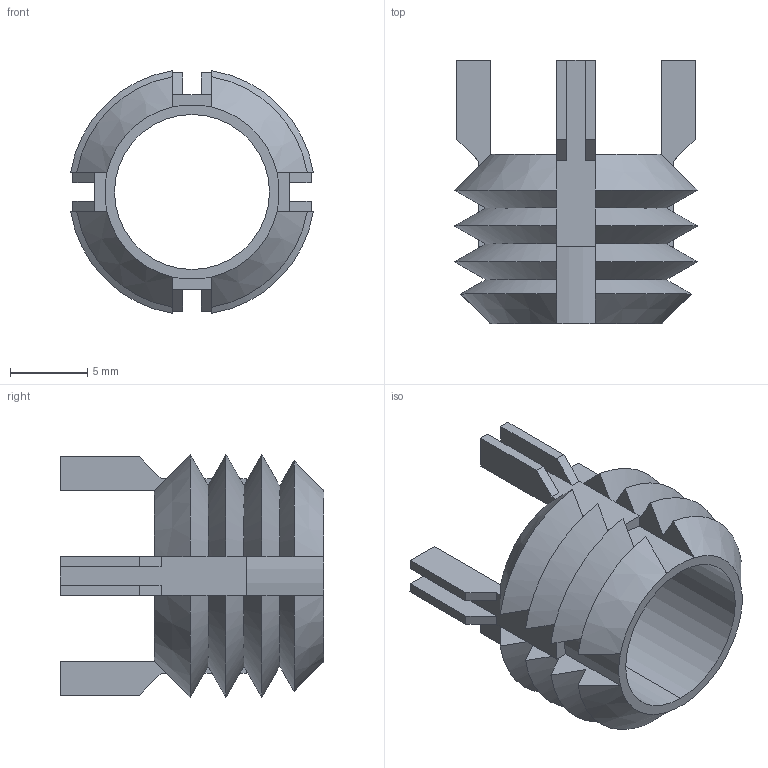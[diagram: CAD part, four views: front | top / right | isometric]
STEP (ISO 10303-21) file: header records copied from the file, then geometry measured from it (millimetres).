
FILE_DESCRIPTION (( 'STEP AP203' ), '1' );
FILE_NAME ('Default.step', '2023-05-02T13:59:04', ( '' ), ( '' ), 'SwSTEP 2.0', 'SolidWorks 2019', '' );
FILE_SCHEMA (( 'CONFIG_CONTROL_DESIGN' ));
Length unit declared in the file: millimetre
Products named in the file (1): Default
Bounding box: 15.68 x 17 x 15.68 mm (x, y, z)
Volume: 754.5 mm3; surface area: 1525.4 mm2
Topology: 1 solids, 1 shells, 128 faces, 322 edges, 196 vertices
Faces by surface type: plane 90, cone 32, cylinder 6
Entity records: 3911 total; most frequent: CARTESIAN_POINT 959, ORIENTED_EDGE 644, DIRECTION 524, EDGE_CURVE 322, VERTEX_POINT 196, AXIS2_PLACEMENT_3D 177, LINE 170, VECTOR 170
